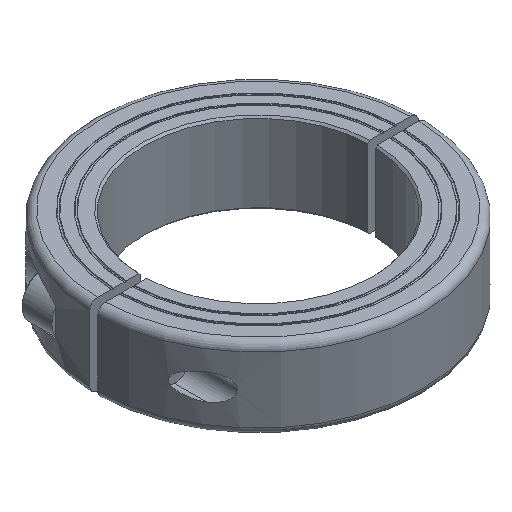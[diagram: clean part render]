
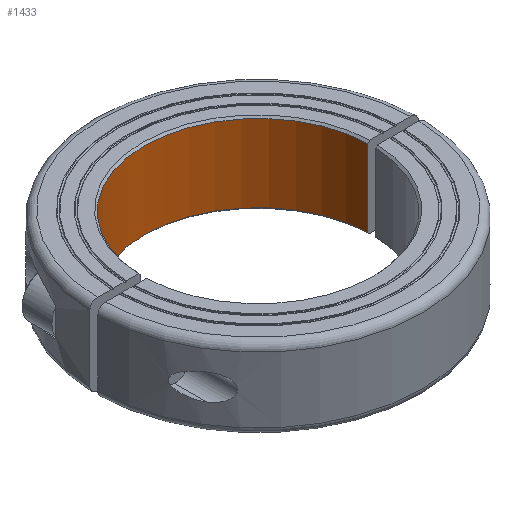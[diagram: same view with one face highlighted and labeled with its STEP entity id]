
A CAD part, isometric view. The second image highlights one B-rep face of the part: STEP entity #1433.
In plain terms, the highlighted cylindrical face has radius 45 mm (diameter 90 mm), a partial arc.
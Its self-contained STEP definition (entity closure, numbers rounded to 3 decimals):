
#251=CARTESIAN_POINT('',(-44.972,1.588,
-0.75));
#256=DIRECTION('',(0.,0.,-1.));
#257=VECTOR('',#256,30.5);
#258=CARTESIAN_POINT('',(-44.972,1.588,
-0.75));
#259=LINE('',#258,#257);
#263=CARTESIAN_POINT('',(-44.972,1.587,-31.25));
#303=CARTESIAN_POINT('',(44.972,1.588,-31.25));
#308=DIRECTION('',(0.,0.,1.));
#309=VECTOR('',#308,30.5);
#310=CARTESIAN_POINT('',(44.972,1.588,-31.25));
#311=LINE('',#310,#309);
#315=CARTESIAN_POINT('',(44.972,1.588,-0.75));
#391=CARTESIAN_POINT('',(0.,0.,-31.25));
#392=DIRECTION('',(0.,0.,1.));
#393=DIRECTION('',(0.999,0.035,0.));
#394=AXIS2_PLACEMENT_3D('',#391,#392,#393);
#401=CARTESIAN_POINT('',(0.,0.,-0.75));
#402=DIRECTION('',(0.,0.,-1.));
#403=DIRECTION('',(-0.999,0.035,0.));
#404=AXIS2_PLACEMENT_3D('',#401,#402,#403);
#891=VERTEX_POINT('',#251);
#892=VERTEX_POINT('',#263);
#894=VERTEX_POINT('',#303);
#896=VERTEX_POINT('',#315);
#1421=CARTESIAN_POINT('',(0.,0.,-0.75));
#1422=DIRECTION('',(0.,0.,-1.));
#1423=DIRECTION('',(-1.,0.,0.));
#1424=AXIS2_PLACEMENT_3D('',#1421,#1422,#1423);
#1425=CYLINDRICAL_SURFACE('',#1424,45.);
#1426=ORIENTED_EDGE('',*,*,#1309,.F.);
#1428=ORIENTED_EDGE('',*,*,#1427,.T.);
#1429=ORIENTED_EDGE('',*,*,#1360,.F.);
#1430=ORIENTED_EDGE('',*,*,#1407,.T.);
#1431=EDGE_LOOP('',(#1426,#1428,#1429,#1430));
#1432=FACE_OUTER_BOUND('',#1431,.F.);
#395=CIRCLE('',#394,45.);
#405=CIRCLE('',#404,45.);
#1309=EDGE_CURVE('',#891,#892,#259,.T.);
#1360=EDGE_CURVE('',#894,#896,#311,.T.);
#1407=EDGE_CURVE('',#894,#892,#395,.T.);
#1427=EDGE_CURVE('',#891,#896,#405,.T.);
#1433=ADVANCED_FACE('',(#1432),#1425,.F.);
